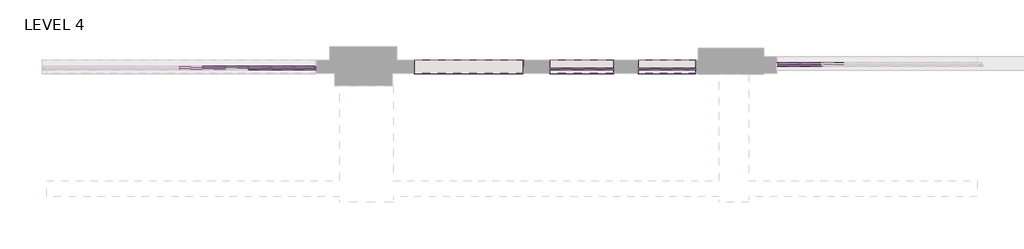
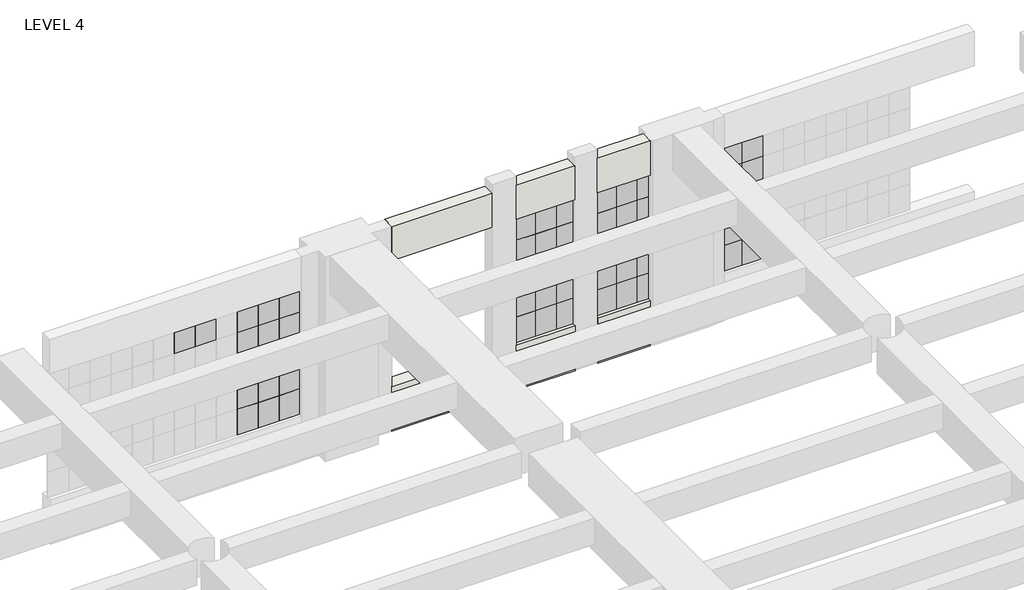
# One storey, part 13 of 26: 64 members, 57 plates, 6 walls.
"""IFC4 building model written with IfcOpenShell, lengths in millimetres."""

from ifc_helpers import new_model, si_unit, frame, origin, origin_with_axes, place, context, project, spatial, polyline, outline, extrude, transform, mapped, element, save
from components import member_038dcf1c, member_0e6c94ff, member_d9fec558, member_3d4b608b, member_3c10d71f, member_653bb31e, member_9ec6e97d, member_6e26db71, member_643a3807, member_ec43e15b, member_223704e7, member_5debf6c2, member_0f6da5c5, member_6c57b699, system_panel_glazed_ab35d819, system_panel_glazed_fc65e113, system_panel_glazed_5431d4d7, system_panel_glazed_4b8f5c95, system_panel_glazed_418eb6cd, system_panel_glazed_dc7be1f0, system_panel_glazed_3cdbc382, system_panel_glazed_e88e50cc

model = new_model("IFC4")

# Units and contexts
model_context = context("Model", 3, world=origin())
ifc_project = project(units=[si_unit("LENGTHUNIT", "METRE", prefix="MILLI")], contexts=[model_context])

# Site, building, storey
site = spatial("IfcSite", under=ifc_project)
building = spatial("IfcBuilding", under=site)
storey = spatial("IfcBuildingStorey", under=building, Name="LEVEL 4", Elevation=0.0)

# Members
placement = place(None, origin())
member_shape = member_038dcf1c(model_context)
element("IfcMember", 1, ObjectType="Circular Mullion : 1 1/4\" Square", at=placement, inside=storey, context=model_context, shape_type="MappedRepresentation", body=[
    mapped(member_shape, transform((-13793.8085473, 117287.443307, 1714.5), x_axis=(-1.0, 0.0, 0.0), y_axis=(0.0, -1.0, 0.0), z_axis=(0.0, 0.0, 1.0))),
])
element("IfcMember", 2, ObjectType="Circular Mullion : 1 1/4\" Square", at=placement, inside=storey, context=model_context, shape_type="MappedRepresentation", body=[
    mapped(member_shape, transform((-13793.8085473, 117287.443307, 2171.7), x_axis=(-1.0, 0.0, 0.0), y_axis=(0.0, -1.0, 0.0), z_axis=(0.0, 0.0, 1.0))),
])
element("IfcMember", 3, ObjectType="Circular Mullion : 1 1/4\" Square", at=placement, inside=storey, context=model_context, shape_type="MappedRepresentation", body=[
    mapped(member_shape, transform((-13793.8085473, 117287.443307, 2628.9), x_axis=(-1.0, 0.0, 0.0), y_axis=(0.0, -1.0, 0.0), z_axis=(0.0, 0.0, 1.0))),
])
element("IfcMember", 4, ObjectType="Circular Mullion : 1 1/4\" Square", at=placement, inside=storey, context=model_context, shape_type="MappedRepresentation", body=[
    mapped(member_shape, transform((-20956.6085473, 117234.1841334, 2171.7), x_axis=(1.0, 0.0, 0.0), y_axis=(0.0, -1.0, 0.0), z_axis=(0.0, 0.0, -1.0))),
])
element("IfcMember", 5, ObjectType="Circular Mullion : 1 1/4\" Square", at=placement, inside=storey, context=model_context, shape_type="MappedRepresentation", body=[
    mapped(member_shape, transform((-20956.6085473, 117234.1841334, 1714.5), x_axis=(1.0, 0.0, 0.0), y_axis=(0.0, -1.0, 0.0), z_axis=(0.0, 0.0, -1.0))),
])
element("IfcMember", 6, ObjectType="Circular Mullion : 1 1/4\" Square", at=placement, inside=storey, context=model_context, shape_type="MappedRepresentation", body=[
    mapped(member_shape, transform((-13793.8085473, 117287.443307, 1257.3), x_axis=(-1.0, 0.0, 0.0), y_axis=(0.0, -1.0, 0.0), z_axis=(0.0, 0.0, 1.0))),
])
member_2_shape = member_0e6c94ff(model_context)
element("IfcMember", 7, ObjectType="Circular Mullion : 1 1/4\" Square", at=placement, inside=storey, context=model_context, shape_type="MappedRepresentation", body=[
    mapped(member_2_shape, transform((-13793.8085473, 117287.443307, 3060.7), x_axis=(-1.0, 0.0, 0.0), y_axis=(0.0, -1.0, 0.0), z_axis=(0.0, 0.0, 1.0))),
])
member_3_shape = member_d9fec558(model_context)
element("IfcMember", 8, ObjectType="Circular Mullion : 1 1/4\" Square", at=placement, inside=storey, context=model_context, shape_type="MappedRepresentation", body=[
    mapped(member_3_shape, transform((-13438.208547, 117287.443307, 2628.9), x_axis=(1.0, 0.0, 0.0), y_axis=(0.0, -1.0, 0.0), z_axis=(0.0, 0.0, -1.0))),
])
member_4_shape = member_3d4b608b(model_context)
element("IfcMember", 9, ObjectType="Circular Mullion : 1 1/4\" Square", at=placement, inside=storey, context=model_context, shape_type="MappedRepresentation", body=[
    mapped(member_4_shape, transform((-13438.208547, 117287.443307, 1257.3), x_axis=(1.0, 0.0, 0.0), y_axis=(0.0, -1.0, 0.0), z_axis=(0.0, 0.0, -1.0))),
])
element("IfcMember", 10, ObjectType="Circular Mullion : 1 1/4\" Square", at=placement, inside=storey, context=model_context, shape_type="MappedRepresentation", body=[
    mapped(member_4_shape, transform((-13438.208547, 117287.443307, 1714.5), x_axis=(1.0, 0.0, 0.0), y_axis=(0.0, -1.0, 0.0), z_axis=(0.0, 0.0, -1.0))),
])
element("IfcMember", 11, ObjectType="Circular Mullion : 1 1/4\" Square", at=placement, inside=storey, context=model_context, shape_type="MappedRepresentation", body=[
    mapped(member_4_shape, transform((-13438.208547, 117287.443307, 2171.7), x_axis=(1.0, 0.0, 0.0), y_axis=(0.0, -1.0, 0.0), z_axis=(0.0, 0.0, -1.0))),
])
element("IfcMember", 12, ObjectType="Circular Mullion : 1 1/4\" Square", at=placement, inside=storey, context=model_context, shape_type="MappedRepresentation", body=[
    mapped(member_4_shape, transform((-13082.608547, 117287.443307, 1257.3), x_axis=(1.0, 0.0, 0.0), y_axis=(0.0, -1.0, 0.0), z_axis=(0.0, 0.0, -1.0))),
])
element("IfcMember", 13, ObjectType="Circular Mullion : 1 1/4\" Square", at=placement, inside=storey, context=model_context, shape_type="MappedRepresentation", body=[
    mapped(member_4_shape, transform((-13082.608547, 117287.443307, 1714.5), x_axis=(1.0, 0.0, 0.0), y_axis=(0.0, -1.0, 0.0), z_axis=(0.0, 0.0, -1.0))),
])
element("IfcMember", 14, ObjectType="Circular Mullion : 1 1/4\" Square", at=placement, inside=storey, context=model_context, shape_type="MappedRepresentation", body=[
    mapped(member_4_shape, transform((-21299.508547, 117234.1841334, 2171.7), x_axis=(1.0, 0.0, 0.0), y_axis=(0.0, -1.0, 0.0), z_axis=(0.0, 0.0, -1.0))),
])
element("IfcMember", 15, ObjectType="Circular Mullion : 1 1/4\" Square", at=placement, inside=storey, context=model_context, shape_type="MappedRepresentation", body=[
    mapped(member_4_shape, transform((-21299.508547, 117234.1841334, 1714.5), x_axis=(1.0, 0.0, 0.0), y_axis=(0.0, -1.0, 0.0), z_axis=(0.0, 0.0, -1.0))),
])
element("IfcMember", 16, ObjectType="Circular Mullion : 1 1/4\" Square", at=placement, inside=storey, context=model_context, shape_type="MappedRepresentation", body=[
    mapped(member_4_shape, transform((-21655.108547, 117234.1841334, 2171.7), x_axis=(1.0, 0.0, 0.0), y_axis=(0.0, -1.0, 0.0), z_axis=(0.0, 0.0, -1.0))),
])
element("IfcMember", 17, ObjectType="Circular Mullion : 1 1/4\" Square", at=placement, inside=storey, context=model_context, shape_type="MappedRepresentation", body=[
    mapped(member_4_shape, transform((-21655.108547, 117234.1841334, 1714.5), x_axis=(1.0, 0.0, 0.0), y_axis=(0.0, -1.0, 0.0), z_axis=(0.0, 0.0, -1.0))),
])
element("IfcMember", 18, ObjectType="Circular Mullion : 1 1/4\" Square", at=placement, inside=storey, context=model_context, shape_type="MappedRepresentation", body=[
    mapped(member_4_shape, transform((-13438.208547, 117287.443307, 800.1), x_axis=(1.0, 0.0, 0.0), y_axis=(0.0, -1.0, 0.0), z_axis=(0.0, 0.0, -1.0))),
])
element("IfcMember", 19, ObjectType="Circular Mullion : 1 1/4\" Square", at=placement, inside=storey, context=model_context, shape_type="MappedRepresentation", body=[
    mapped(member_4_shape, transform((-13082.608547, 117287.443307, 800.1), x_axis=(1.0, 0.0, 0.0), y_axis=(0.0, -1.0, 0.0), z_axis=(0.0, 0.0, -1.0))),
])
member_5_shape = member_3c10d71f(model_context)
element("IfcMember", 20, ObjectType="Circular Mullion : 1 1/4\" Square", at=placement, inside=storey, context=model_context, shape_type="MappedRepresentation", body=[
    mapped(member_5_shape, transform((-13095.308547, 117287.443307, 3060.7), x_axis=(0.0, 0.0, 1.0), y_axis=(0.0, -1.0, 0.0), z_axis=(1.0, 0.0, 0.0))),
])
element("IfcMember", 21, ObjectType="Circular Mullion : 1 1/4\" Square", at=placement, inside=storey, context=model_context, shape_type="MappedRepresentation", body=[
    mapped(member_5_shape, transform((-13425.508547, 117287.443307, 800.1), x_axis=(0.0, 0.0, -1.0), y_axis=(0.0, -1.0, 0.0), z_axis=(-1.0, 0.0, 0.0))),
])
element("IfcMember", 22, ObjectType="Circular Mullion : 1 1/4\" Square", at=placement, inside=storey, context=model_context, shape_type="MappedRepresentation", body=[
    mapped(member_5_shape, transform((-13069.908547, 117287.443307, 800.1), x_axis=(0.0, 0.0, -1.0), y_axis=(0.0, -1.0, 0.0), z_axis=(-1.0, 0.0, 0.0))),
])
element("IfcMember", 23, ObjectType="Circular Mullion : 1 1/4\" Square", at=placement, inside=storey, context=model_context, shape_type="MappedRepresentation", body=[
    mapped(member_5_shape, transform((-21642.408547, 117234.1841334, 800.1), x_axis=(0.0, 0.0, -1.0), y_axis=(0.0, -1.0, 0.0), z_axis=(-1.0, 0.0, 0.0))),
])
member_6_shape = member_653bb31e(model_context)
element("IfcMember", 24, ObjectType="Circular Mullion : 1 1/4\" Square", at=placement, inside=storey, context=model_context, shape_type="MappedRepresentation", body=[
    mapped(member_6_shape, transform((-13095.308547, 117287.443307, 1257.3), x_axis=(0.0, 0.0, 1.0), y_axis=(0.0, -1.0, 0.0), z_axis=(1.0, 0.0, 0.0))),
])
element("IfcMember", 25, ObjectType="Circular Mullion : 1 1/4\" Square", at=placement, inside=storey, context=model_context, shape_type="MappedRepresentation", body=[
    mapped(member_6_shape, transform((-13095.308547, 117287.443307, 1714.5), x_axis=(0.0, 0.0, 1.0), y_axis=(0.0, -1.0, 0.0), z_axis=(1.0, 0.0, 0.0))),
])
element("IfcMember", 26, ObjectType="Circular Mullion : 1 1/4\" Square", at=placement, inside=storey, context=model_context, shape_type="MappedRepresentation", body=[
    mapped(member_6_shape, transform((-13095.308547, 117287.443307, 2171.7), x_axis=(0.0, 0.0, 1.0), y_axis=(0.0, -1.0, 0.0), z_axis=(1.0, 0.0, 0.0))),
])
element("IfcMember", 27, ObjectType="Circular Mullion : 1 1/4\" Square", at=placement, inside=storey, context=model_context, shape_type="MappedRepresentation", body=[
    mapped(member_6_shape, transform((-13095.308547, 117287.443307, 2628.9), x_axis=(0.0, 0.0, 1.0), y_axis=(0.0, -1.0, 0.0), z_axis=(1.0, 0.0, 0.0))),
])
element("IfcMember", 28, ObjectType="Circular Mullion : 1 1/4\" Square", at=placement, inside=storey, context=model_context, shape_type="MappedRepresentation", body=[
    mapped(member_6_shape, transform((-21312.208547, 117234.1841334, 1714.5), x_axis=(0.0, 0.0, 1.0), y_axis=(0.0, -1.0, 0.0), z_axis=(1.0, 0.0, 0.0))),
])
element("IfcMember", 29, ObjectType="Circular Mullion : 1 1/4\" Square", at=placement, inside=storey, context=model_context, shape_type="MappedRepresentation", body=[
    mapped(member_6_shape, transform((-21312.208547, 117234.1841334, 2628.9), x_axis=(0.0, 0.0, 1.0), y_axis=(0.0, -1.0, 0.0), z_axis=(1.0, 0.0, 0.0))),
])
element("IfcMember", 30, ObjectType="Circular Mullion : 1 1/4\" Square", at=placement, inside=storey, context=model_context, shape_type="MappedRepresentation", body=[
    mapped(member_6_shape, transform((-21312.208547, 117234.1841334, 2171.7), x_axis=(0.0, 0.0, 1.0), y_axis=(0.0, -1.0, 0.0), z_axis=(1.0, 0.0, 0.0))),
])
member_7_shape = member_9ec6e97d(model_context)
element("IfcMember", 31, ObjectType="Circular Mullion : 1 1/4\" Square", at=placement, inside=storey, context=model_context, shape_type="MappedRepresentation", body=[
    mapped(member_7_shape, transform((-13450.908547, 117287.443307, 3060.7), x_axis=(0.0, 0.0, 1.0), y_axis=(0.0, -1.0, 0.0), z_axis=(1.0, 0.0, 0.0))),
])
element("IfcMember", 32, ObjectType="Circular Mullion : 1 1/4\" Square", at=placement, inside=storey, context=model_context, shape_type="MappedRepresentation", body=[
    mapped(member_7_shape, transform((-13768.4085473, 117287.443307, 800.1), x_axis=(0.0, 0.0, -1.0), y_axis=(0.0, -1.0, 0.0), z_axis=(-1.0, 0.0, 0.0))),
])
member_8_shape = member_6e26db71(model_context)
element("IfcMember", 33, ObjectType="Circular Mullion : 1 1/4\" Square", at=placement, inside=storey, context=model_context, shape_type="MappedRepresentation", body=[
    mapped(member_8_shape, transform((-13450.908547, 117287.443307, 1257.3), x_axis=(0.0, 0.0, 1.0), y_axis=(0.0, -1.0, 0.0), z_axis=(1.0, 0.0, 0.0))),
])
element("IfcMember", 34, ObjectType="Circular Mullion : 1 1/4\" Square", at=placement, inside=storey, context=model_context, shape_type="MappedRepresentation", body=[
    mapped(member_8_shape, transform((-13450.908547, 117287.443307, 1714.5), x_axis=(0.0, 0.0, 1.0), y_axis=(0.0, -1.0, 0.0), z_axis=(1.0, 0.0, 0.0))),
])
element("IfcMember", 35, ObjectType="Circular Mullion : 1 1/4\" Square", at=placement, inside=storey, context=model_context, shape_type="MappedRepresentation", body=[
    mapped(member_8_shape, transform((-13450.908547, 117287.443307, 2171.7), x_axis=(0.0, 0.0, 1.0), y_axis=(0.0, -1.0, 0.0), z_axis=(1.0, 0.0, 0.0))),
])
element("IfcMember", 36, ObjectType="Circular Mullion : 1 1/4\" Square", at=placement, inside=storey, context=model_context, shape_type="MappedRepresentation", body=[
    mapped(member_8_shape, transform((-13450.908547, 117287.443307, 2628.9), x_axis=(0.0, 0.0, 1.0), y_axis=(0.0, -1.0, 0.0), z_axis=(1.0, 0.0, 0.0))),
])
element("IfcMember", 37, ObjectType="Circular Mullion : 1 1/4\" Square", at=placement, inside=storey, context=model_context, shape_type="MappedRepresentation", body=[
    mapped(member_3_shape, transform((-21299.508547, 117234.1841334, 2628.9), x_axis=(1.0, 0.0, 0.0), y_axis=(0.0, -1.0, 0.0), z_axis=(0.0, 0.0, -1.0))),
])
element("IfcMember", 38, ObjectType="Circular Mullion : 1 1/4\" Square", at=placement, inside=storey, context=model_context, shape_type="MappedRepresentation", body=[
    mapped(member_3_shape, transform((-21655.108547, 117234.1841334, 2628.9), x_axis=(1.0, 0.0, 0.0), y_axis=(0.0, -1.0, 0.0), z_axis=(0.0, 0.0, -1.0))),
])
element("IfcMember", 39, ObjectType="Circular Mullion : 1 1/4\" Square", at=placement, inside=storey, context=model_context, shape_type="MappedRepresentation", body=[
    mapped(member_2_shape, transform((-20956.6085473, 117234.1841334, 2628.9), x_axis=(1.0, 0.0, 0.0), y_axis=(0.0, -1.0, 0.0), z_axis=(0.0, 0.0, -1.0))),
])
member_9_shape = member_643a3807(model_context)
element("IfcMember", 40, ObjectType="Circular Mullion : 1 1/4\" Square", at=placement, inside=storey, context=model_context, shape_type="MappedRepresentation", body=[
    mapped(member_9_shape, transform((-22721.908547, 117234.1841334, 1714.5), x_axis=(0.0, 0.0, 1.0), y_axis=(0.0, -1.0, 0.0), z_axis=(1.0, 0.0, 0.0))),
])
element("IfcMember", 41, ObjectType="Circular Mullion : 1 1/4\" Square", at=placement, inside=storey, context=model_context, shape_type="MappedRepresentation", body=[
    mapped(member_9_shape, transform((-22366.308547, 117234.1841334, 1714.5), x_axis=(0.0, 0.0, 1.0), y_axis=(0.0, -1.0, 0.0), z_axis=(1.0, 0.0, 0.0))),
])
element("IfcMember", 42, ObjectType="Circular Mullion : 1 1/4\" Square", at=placement, inside=storey, context=model_context, shape_type="MappedRepresentation", body=[
    mapped(member_9_shape, transform((-22010.708547, 117234.1841334, 1714.5), x_axis=(0.0, 0.0, 1.0), y_axis=(0.0, -1.0, 0.0), z_axis=(1.0, 0.0, 0.0))),
])
element("IfcMember", 43, ObjectType="Circular Mullion : 1 1/4\" Square", at=placement, inside=storey, context=model_context, shape_type="MappedRepresentation", body=[
    mapped(member_9_shape, transform((-22721.908547, 117234.1841334, 2628.9), x_axis=(0.0, 0.0, 1.0), y_axis=(0.0, -1.0, 0.0), z_axis=(1.0, 0.0, 0.0))),
])
element("IfcMember", 44, ObjectType="Circular Mullion : 1 1/4\" Square", at=placement, inside=storey, context=model_context, shape_type="MappedRepresentation", body=[
    mapped(member_9_shape, transform((-22366.308547, 117234.1841334, 2628.9), x_axis=(0.0, 0.0, 1.0), y_axis=(0.0, -1.0, 0.0), z_axis=(1.0, 0.0, 0.0))),
])
element("IfcMember", 45, ObjectType="Circular Mullion : 1 1/4\" Square", at=placement, inside=storey, context=model_context, shape_type="MappedRepresentation", body=[
    mapped(member_9_shape, transform((-22010.708547, 117234.1841334, 2628.9), x_axis=(0.0, 0.0, 1.0), y_axis=(0.0, -1.0, 0.0), z_axis=(1.0, 0.0, 0.0))),
])
element("IfcMember", 46, ObjectType="Circular Mullion : 1 1/4\" Square", at=placement, inside=storey, context=model_context, shape_type="MappedRepresentation", body=[
    mapped(member_9_shape, transform((-22721.908547, 117234.1841334, 2171.7), x_axis=(0.0, 0.0, 1.0), y_axis=(0.0, -1.0, 0.0), z_axis=(1.0, 0.0, 0.0))),
])
element("IfcMember", 47, ObjectType="Circular Mullion : 1 1/4\" Square", at=placement, inside=storey, context=model_context, shape_type="MappedRepresentation", body=[
    mapped(member_9_shape, transform((-22366.308547, 117234.1841334, 2171.7), x_axis=(0.0, 0.0, 1.0), y_axis=(0.0, -1.0, 0.0), z_axis=(1.0, 0.0, 0.0))),
])
element("IfcMember", 48, ObjectType="Circular Mullion : 1 1/4\" Square", at=placement, inside=storey, context=model_context, shape_type="MappedRepresentation", body=[
    mapped(member_9_shape, transform((-22010.708547, 117234.1841334, 2171.7), x_axis=(0.0, 0.0, 1.0), y_axis=(0.0, -1.0, 0.0), z_axis=(1.0, 0.0, 0.0))),
])
member_10_shape = member_ec43e15b(model_context)
element("IfcMember", 49, ObjectType="Circular Mullion : 1 1/4\" Square", at=placement, inside=storey, context=model_context, shape_type="MappedRepresentation", body=[
    mapped(member_10_shape, transform((-22721.908547, 117234.1841334, 800.1), x_axis=(0.0, 0.0, -1.0), y_axis=(0.0, -1.0, 0.0), z_axis=(-1.0, 0.0, 0.0))),
])
element("IfcMember", 50, ObjectType="Circular Mullion : 1 1/4\" Square", at=placement, inside=storey, context=model_context, shape_type="MappedRepresentation", body=[
    mapped(member_10_shape, transform((-22366.308547, 117234.1841334, 800.1), x_axis=(0.0, 0.0, -1.0), y_axis=(0.0, -1.0, 0.0), z_axis=(-1.0, 0.0, 0.0))),
])
member_11_shape = member_223704e7(model_context)
element("IfcMember", 51, ObjectType="Circular Mullion : 1 1/4\" Square", at=placement, inside=storey, context=model_context, shape_type="MappedRepresentation", body=[
    mapped(member_11_shape, transform((-20982.0085473, 117234.1841334, 1714.5), x_axis=(0.0, 0.0, 1.0), y_axis=(0.0, -1.0, 0.0), z_axis=(1.0, 0.0, 0.0))),
])
element("IfcMember", 52, ObjectType="Circular Mullion : 1 1/4\" Square", at=placement, inside=storey, context=model_context, shape_type="MappedRepresentation", body=[
    mapped(member_11_shape, transform((-20982.0085473, 117234.1841334, 2628.9), x_axis=(0.0, 0.0, 1.0), y_axis=(0.0, -1.0, 0.0), z_axis=(1.0, 0.0, 0.0))),
])
element("IfcMember", 53, ObjectType="Circular Mullion : 1 1/4\" Square", at=placement, inside=storey, context=model_context, shape_type="MappedRepresentation", body=[
    mapped(member_11_shape, transform((-20982.0085473, 117234.1841334, 2171.7), x_axis=(0.0, 0.0, 1.0), y_axis=(0.0, -1.0, 0.0), z_axis=(1.0, 0.0, 0.0))),
])
member_12_shape = member_5debf6c2(model_context)
element("IfcMember", 54, ObjectType="Circular Mullion : 1 1/4\" Square", at=placement, inside=storey, context=model_context, shape_type="MappedRepresentation", body=[
    mapped(member_12_shape, transform((-21286.808547, 117234.1841334, 800.1), x_axis=(0.0, 0.0, -1.0), y_axis=(0.0, -1.0, 0.0), z_axis=(-1.0, 0.0, 0.0))),
])
element("IfcMember", 55, ObjectType="Circular Mullion : 1 1/4\" Square", at=placement, inside=storey, context=model_context, shape_type="MappedRepresentation", body=[
    mapped(member_shape, transform((-20956.6085473, 117234.1841334, 800.1), x_axis=(1.0, 0.0, 0.0), y_axis=(0.0, -1.0, 0.0), z_axis=(0.0, 0.0, -1.0))),
])
member_13_shape = member_0f6da5c5(model_context)
element("IfcMember", 56, ObjectType="Circular Mullion : 1 1/4\" Square", at=placement, inside=storey, context=model_context, shape_type="MappedRepresentation", body=[
    mapped(member_13_shape, transform((-22010.708547, 117234.1841334, 800.1), x_axis=(0.0, 0.0, -1.0), y_axis=(0.0, -1.0, 0.0), z_axis=(-1.0, 0.0, 0.0))),
])
element("IfcMember", 57, ObjectType="Circular Mullion : 1 1/4\" Square", at=placement, inside=storey, context=model_context, shape_type="MappedRepresentation", body=[
    mapped(member_4_shape, transform((-21299.508547, 117234.1841334, 800.1), x_axis=(1.0, 0.0, 0.0), y_axis=(0.0, -1.0, 0.0), z_axis=(0.0, 0.0, -1.0))),
])
element("IfcMember", 58, ObjectType="Circular Mullion : 1 1/4\" Square", at=placement, inside=storey, context=model_context, shape_type="MappedRepresentation", body=[
    mapped(member_4_shape, transform((-21655.108547, 117234.1841334, 800.1), x_axis=(1.0, 0.0, 0.0), y_axis=(0.0, -1.0, 0.0), z_axis=(0.0, 0.0, -1.0))),
])
member_14_shape = member_6c57b699(model_context)
element("IfcMember", 59, ObjectType="Circular Mullion : 1 1/4\" Square", at=placement, inside=storey, context=model_context, shape_type="MappedRepresentation", body=[
    mapped(member_14_shape, transform((-21667.808547, 117234.1841334, 1714.5), x_axis=(0.0, 0.0, 1.0), y_axis=(0.0, -1.0, 0.0), z_axis=(1.0, 0.0, 0.0))),
])
element("IfcMember", 60, ObjectType="Circular Mullion : 1 1/4\" Square", at=placement, inside=storey, context=model_context, shape_type="MappedRepresentation", body=[
    mapped(member_14_shape, transform((-21667.808547, 117234.1841334, 2628.9), x_axis=(0.0, 0.0, 1.0), y_axis=(0.0, -1.0, 0.0), z_axis=(1.0, 0.0, 0.0))),
])
element("IfcMember", 61, ObjectType="Circular Mullion : 1 1/4\" Square", at=placement, inside=storey, context=model_context, shape_type="MappedRepresentation", body=[
    mapped(member_14_shape, transform((-21667.808547, 117234.1841334, 2171.7), x_axis=(0.0, 0.0, 1.0), y_axis=(0.0, -1.0, 0.0), z_axis=(1.0, 0.0, 0.0))),
])
element("IfcMember", 62, ObjectType="Circular Mullion : 1 1/4\" Square", at=placement, inside=storey, context=model_context, shape_type="MappedRepresentation", body=[
    mapped(member_4_shape, transform((-21299.508547, 117234.1841334, 1257.3), x_axis=(1.0, 0.0, 0.0), y_axis=(0.0, -1.0, 0.0), z_axis=(0.0, 0.0, -1.0))),
])
element("IfcMember", 63, ObjectType="Circular Mullion : 1 1/4\" Square", at=placement, inside=storey, context=model_context, shape_type="MappedRepresentation", body=[
    mapped(member_4_shape, transform((-21655.108547, 117234.1841334, 1257.3), x_axis=(1.0, 0.0, 0.0), y_axis=(0.0, -1.0, 0.0), z_axis=(0.0, 0.0, -1.0))),
])
element("IfcMember", 64, ObjectType="Circular Mullion : 1 1/4\" Square", at=placement, inside=storey, context=model_context, shape_type="MappedRepresentation", body=[
    mapped(member_shape, transform((-20956.6085473, 117234.1841334, 1257.3), x_axis=(1.0, 0.0, 0.0), y_axis=(0.0, -1.0, 0.0), z_axis=(0.0, 0.0, -1.0))),
])

# Plates
system_panel_glazed_shape = system_panel_glazed_ab35d819(model_context)
element("IfcPlate", 65, ObjectType="System Panel : Glazed", at=placement, inside=storey, context=model_context, shape_type="MappedRepresentation", body=[
    mapped(system_panel_glazed_shape, transform((-21477.308547, 117234.1841334, 800.1), x_axis=(1.0, 0.0, 0.0), y_axis=(0.0, 1.0, 0.0), z_axis=(0.0, 0.0, 1.0))),
])
element("IfcPlate", 66, ObjectType="System Panel : Glazed", at=placement, inside=storey, context=model_context, shape_type="MappedRepresentation", body=[
    mapped(system_panel_glazed_shape, transform((-17140.2585471, 117234.1841334, 800.1), x_axis=(1.0, 0.0, 0.0), y_axis=(0.0, 1.0, 0.0), z_axis=(0.0, 0.0, 1.0))),
])
element("IfcPlate", 67, ObjectType="System Panel : Glazed", at=placement, inside=storey, context=model_context, shape_type="MappedRepresentation", body=[
    mapped(system_panel_glazed_shape, transform((-15768.6585471, 117234.1841334, 800.1), x_axis=(1.0, 0.0, 0.0), y_axis=(0.0, 1.0, 0.0), z_axis=(0.0, 0.0, 1.0))),
])
element("IfcPlate", 68, ObjectType="System Panel : Glazed", at=placement, inside=storey, context=model_context, shape_type="MappedRepresentation", body=[
    mapped(system_panel_glazed_shape, transform((-13616.0085471, 117287.443307, 800.1), x_axis=(1.0, 0.0, 0.0), y_axis=(0.0, 1.0, 0.0), z_axis=(0.0, 0.0, 1.0))),
])
element("IfcPlate", 69, ObjectType="System Panel : Glazed", at=placement, inside=storey, context=model_context, shape_type="MappedRepresentation", body=[
    mapped(system_panel_glazed_shape, transform((-21832.908547, 117234.1841334, 800.1), x_axis=(1.0, 0.0, 0.0), y_axis=(0.0, 1.0, 0.0), z_axis=(0.0, 0.0, 1.0))),
])
element("IfcPlate", 70, ObjectType="System Panel : Glazed", at=placement, inside=storey, context=model_context, shape_type="MappedRepresentation", body=[
    mapped(system_panel_glazed_shape, transform((-21832.908547, 117234.1841334, 1257.3), x_axis=(1.0, 0.0, 0.0), y_axis=(0.0, 1.0, 0.0), z_axis=(0.0, 0.0, 1.0))),
])
element("IfcPlate", 71, ObjectType="System Panel : Glazed", at=placement, inside=storey, context=model_context, shape_type="MappedRepresentation", body=[
    mapped(system_panel_glazed_shape, transform((-21477.308547, 117234.1841334, 1257.3), x_axis=(1.0, 0.0, 0.0), y_axis=(0.0, 1.0, 0.0), z_axis=(0.0, 0.0, 1.0))),
])
element("IfcPlate", 72, ObjectType="System Panel : Glazed", at=placement, inside=storey, context=model_context, shape_type="MappedRepresentation", body=[
    mapped(system_panel_glazed_shape, transform((-21832.908547, 117234.1841334, 1714.5), x_axis=(1.0, 0.0, 0.0), y_axis=(0.0, 1.0, 0.0), z_axis=(0.0, 0.0, 1.0))),
])
element("IfcPlate", 73, ObjectType="System Panel : Glazed", at=placement, inside=storey, context=model_context, shape_type="MappedRepresentation", body=[
    mapped(system_panel_glazed_shape, transform((-21477.308547, 117234.1841334, 1714.5), x_axis=(1.0, 0.0, 0.0), y_axis=(0.0, 1.0, 0.0), z_axis=(0.0, 0.0, 1.0))),
])
element("IfcPlate", 74, ObjectType="System Panel : Glazed", at=placement, inside=storey, context=model_context, shape_type="MappedRepresentation", body=[
    mapped(system_panel_glazed_shape, transform((-21832.908547, 117234.1841334, 2171.7), x_axis=(1.0, 0.0, 0.0), y_axis=(0.0, 1.0, 0.0), z_axis=(0.0, 0.0, 1.0))),
])
element("IfcPlate", 75, ObjectType="System Panel : Glazed", at=placement, inside=storey, context=model_context, shape_type="MappedRepresentation", body=[
    mapped(system_panel_glazed_shape, transform((-21477.308547, 117234.1841334, 2171.7), x_axis=(1.0, 0.0, 0.0), y_axis=(0.0, 1.0, 0.0), z_axis=(0.0, 0.0, 1.0))),
])
element("IfcPlate", 76, ObjectType="System Panel : Glazed", at=placement, inside=storey, context=model_context, shape_type="MappedRepresentation", body=[
    mapped(system_panel_glazed_shape, transform((-16784.658547, 117234.1841334, 800.1), x_axis=(1.0, 0.0, 0.0), y_axis=(0.0, 1.0, 0.0), z_axis=(0.0, 0.0, 1.0))),
])
element("IfcPlate", 77, ObjectType="System Panel : Glazed", at=placement, inside=storey, context=model_context, shape_type="MappedRepresentation", body=[
    mapped(system_panel_glazed_shape, transform((-17140.2585471, 117234.1841334, 1257.3), x_axis=(1.0, 0.0, 0.0), y_axis=(0.0, 1.0, 0.0), z_axis=(0.0, 0.0, 1.0))),
])
element("IfcPlate", 78, ObjectType="System Panel : Glazed", at=placement, inside=storey, context=model_context, shape_type="MappedRepresentation", body=[
    mapped(system_panel_glazed_shape, transform((-16784.658547, 117234.1841334, 1257.3), x_axis=(1.0, 0.0, 0.0), y_axis=(0.0, 1.0, 0.0), z_axis=(0.0, 0.0, 1.0))),
])
element("IfcPlate", 79, ObjectType="System Panel : Glazed", at=placement, inside=storey, context=model_context, shape_type="MappedRepresentation", body=[
    mapped(system_panel_glazed_shape, transform((-17140.2585471, 117234.1841334, 1714.5), x_axis=(1.0, 0.0, 0.0), y_axis=(0.0, 1.0, 0.0), z_axis=(0.0, 0.0, 1.0))),
])
element("IfcPlate", 80, ObjectType="System Panel : Glazed", at=placement, inside=storey, context=model_context, shape_type="MappedRepresentation", body=[
    mapped(system_panel_glazed_shape, transform((-16784.658547, 117234.1841334, 1714.5), x_axis=(1.0, 0.0, 0.0), y_axis=(0.0, 1.0, 0.0), z_axis=(0.0, 0.0, 1.0))),
])
element("IfcPlate", 81, ObjectType="System Panel : Glazed", at=placement, inside=storey, context=model_context, shape_type="MappedRepresentation", body=[
    mapped(system_panel_glazed_shape, transform((-17140.2585471, 117234.1841334, 2171.7), x_axis=(1.0, 0.0, 0.0), y_axis=(0.0, 1.0, 0.0), z_axis=(0.0, 0.0, 1.0))),
])
element("IfcPlate", 82, ObjectType="System Panel : Glazed", at=placement, inside=storey, context=model_context, shape_type="MappedRepresentation", body=[
    mapped(system_panel_glazed_shape, transform((-16784.658547, 117234.1841334, 2171.7), x_axis=(1.0, 0.0, 0.0), y_axis=(0.0, 1.0, 0.0), z_axis=(0.0, 0.0, 1.0))),
])
element("IfcPlate", 83, ObjectType="System Panel : Glazed", at=placement, inside=storey, context=model_context, shape_type="MappedRepresentation", body=[
    mapped(system_panel_glazed_shape, transform((-15768.6585471, 117234.1841334, 1257.3), x_axis=(1.0, 0.0, 0.0), y_axis=(0.0, 1.0, 0.0), z_axis=(0.0, 0.0, 1.0))),
])
element("IfcPlate", 84, ObjectType="System Panel : Glazed", at=placement, inside=storey, context=model_context, shape_type="MappedRepresentation", body=[
    mapped(system_panel_glazed_shape, transform((-15768.6585471, 117234.1841334, 1714.5), x_axis=(1.0, 0.0, 0.0), y_axis=(0.0, 1.0, 0.0), z_axis=(0.0, 0.0, 1.0))),
])
element("IfcPlate", 85, ObjectType="System Panel : Glazed", at=placement, inside=storey, context=model_context, shape_type="MappedRepresentation", body=[
    mapped(system_panel_glazed_shape, transform((-15768.6585471, 117234.1841334, 2171.7), x_axis=(1.0, 0.0, 0.0), y_axis=(0.0, 1.0, 0.0), z_axis=(0.0, 0.0, 1.0))),
])
element("IfcPlate", 86, ObjectType="System Panel : Glazed", at=placement, inside=storey, context=model_context, shape_type="MappedRepresentation", body=[
    mapped(system_panel_glazed_shape, transform((-13616.0085471, 117287.443307, 1257.3), x_axis=(1.0, 0.0, 0.0), y_axis=(0.0, 1.0, 0.0), z_axis=(0.0, 0.0, 1.0))),
])
element("IfcPlate", 87, ObjectType="System Panel : Glazed", at=placement, inside=storey, context=model_context, shape_type="MappedRepresentation", body=[
    mapped(system_panel_glazed_shape, transform((-13616.0085471, 117287.443307, 1714.5), x_axis=(1.0, 0.0, 0.0), y_axis=(0.0, 1.0, 0.0), z_axis=(0.0, 0.0, 1.0))),
])
element("IfcPlate", 88, ObjectType="System Panel : Glazed", at=placement, inside=storey, context=model_context, shape_type="MappedRepresentation", body=[
    mapped(system_panel_glazed_shape, transform((-13616.0085471, 117287.443307, 2171.7), x_axis=(1.0, 0.0, 0.0), y_axis=(0.0, 1.0, 0.0), z_axis=(0.0, 0.0, 1.0))),
])
element("IfcPlate", 89, ObjectType="System Panel : Glazed", at=placement, inside=storey, context=model_context, shape_type="MappedRepresentation", body=[
    mapped(system_panel_glazed_shape, transform((-15413.058547, 117234.1841334, 800.1), x_axis=(1.0, 0.0, 0.0), y_axis=(0.0, 1.0, 0.0), z_axis=(0.0, 0.0, 1.0))),
])
element("IfcPlate", 90, ObjectType="System Panel : Glazed", at=placement, inside=storey, context=model_context, shape_type="MappedRepresentation", body=[
    mapped(system_panel_glazed_shape, transform((-15413.058547, 117234.1841334, 1257.3), x_axis=(1.0, 0.0, 0.0), y_axis=(0.0, 1.0, 0.0), z_axis=(0.0, 0.0, 1.0))),
])
element("IfcPlate", 91, ObjectType="System Panel : Glazed", at=placement, inside=storey, context=model_context, shape_type="MappedRepresentation", body=[
    mapped(system_panel_glazed_shape, transform((-15413.058547, 117234.1841334, 1714.5), x_axis=(1.0, 0.0, 0.0), y_axis=(0.0, 1.0, 0.0), z_axis=(0.0, 0.0, 1.0))),
])
element("IfcPlate", 92, ObjectType="System Panel : Glazed", at=placement, inside=storey, context=model_context, shape_type="MappedRepresentation", body=[
    mapped(system_panel_glazed_shape, transform((-15413.058547, 117234.1841334, 2171.7), x_axis=(1.0, 0.0, 0.0), y_axis=(0.0, 1.0, 0.0), z_axis=(0.0, 0.0, 1.0))),
])
element("IfcPlate", 93, ObjectType="System Panel : Glazed", at=placement, inside=storey, context=model_context, shape_type="MappedRepresentation", body=[
    mapped(system_panel_glazed_shape, transform((-13260.408547, 117287.443307, 800.1), x_axis=(1.0, 0.0, 0.0), y_axis=(0.0, 1.0, 0.0), z_axis=(0.0, 0.0, 1.0))),
])
element("IfcPlate", 94, ObjectType="System Panel : Glazed", at=placement, inside=storey, context=model_context, shape_type="MappedRepresentation", body=[
    mapped(system_panel_glazed_shape, transform((-13260.408547, 117287.443307, 1257.3), x_axis=(1.0, 0.0, 0.0), y_axis=(0.0, 1.0, 0.0), z_axis=(0.0, 0.0, 1.0))),
])
element("IfcPlate", 95, ObjectType="System Panel : Glazed", at=placement, inside=storey, context=model_context, shape_type="MappedRepresentation", body=[
    mapped(system_panel_glazed_shape, transform((-13260.408547, 117287.443307, 1714.5), x_axis=(1.0, 0.0, 0.0), y_axis=(0.0, 1.0, 0.0), z_axis=(0.0, 0.0, 1.0))),
])
element("IfcPlate", 96, ObjectType="System Panel : Glazed", at=placement, inside=storey, context=model_context, shape_type="MappedRepresentation", body=[
    mapped(system_panel_glazed_shape, transform((-13260.408547, 117287.443307, 2171.7), x_axis=(1.0, 0.0, 0.0), y_axis=(0.0, 1.0, 0.0), z_axis=(0.0, 0.0, 1.0))),
])
system_panel_glazed_2_shape = system_panel_glazed_fc65e113(model_context)
element("IfcPlate", 97, ObjectType="System Panel : Glazed", at=placement, inside=storey, context=model_context, shape_type="MappedRepresentation", body=[
    mapped(system_panel_glazed_2_shape, transform((-21128.0585471, 117234.1841334, 800.1), x_axis=(1.0, 0.0, 0.0), y_axis=(0.0, 1.0, 0.0), z_axis=(0.0, 0.0, 1.0))),
])
element("IfcPlate", 98, ObjectType="System Panel : Glazed", at=placement, inside=storey, context=model_context, shape_type="MappedRepresentation", body=[
    mapped(system_panel_glazed_2_shape, transform((-21128.0585471, 117234.1841334, 1257.3), x_axis=(1.0, 0.0, 0.0), y_axis=(0.0, 1.0, 0.0), z_axis=(0.0, 0.0, 1.0))),
])
element("IfcPlate", 99, ObjectType="System Panel : Glazed", at=placement, inside=storey, context=model_context, shape_type="MappedRepresentation", body=[
    mapped(system_panel_glazed_2_shape, transform((-21128.0585471, 117234.1841334, 1714.5), x_axis=(1.0, 0.0, 0.0), y_axis=(0.0, 1.0, 0.0), z_axis=(0.0, 0.0, 1.0))),
])
element("IfcPlate", 100, ObjectType="System Panel : Glazed", at=placement, inside=storey, context=model_context, shape_type="MappedRepresentation", body=[
    mapped(system_panel_glazed_2_shape, transform((-21128.0585471, 117234.1841334, 2171.7), x_axis=(1.0, 0.0, 0.0), y_axis=(0.0, 1.0, 0.0), z_axis=(0.0, 0.0, 1.0))),
])
system_panel_glazed_3_shape = system_panel_glazed_5431d4d7(model_context)
element("IfcPlate", 101, ObjectType="System Panel : Glazed", at=placement, inside=storey, context=model_context, shape_type="MappedRepresentation", body=[
    mapped(system_panel_glazed_3_shape, transform((-16467.1585471, 117234.1841334, 800.1), x_axis=(1.0, 0.0, 0.0), y_axis=(0.0, 1.0, 0.0), z_axis=(0.0, 0.0, 1.0))),
])
element("IfcPlate", 102, ObjectType="System Panel : Glazed", at=placement, inside=storey, context=model_context, shape_type="MappedRepresentation", body=[
    mapped(system_panel_glazed_3_shape, transform((-16467.1585471, 117234.1841334, 1257.3), x_axis=(1.0, 0.0, 0.0), y_axis=(0.0, 1.0, 0.0), z_axis=(0.0, 0.0, 1.0))),
])
element("IfcPlate", 103, ObjectType="System Panel : Glazed", at=placement, inside=storey, context=model_context, shape_type="MappedRepresentation", body=[
    mapped(system_panel_glazed_3_shape, transform((-16467.1585471, 117234.1841334, 1714.5), x_axis=(1.0, 0.0, 0.0), y_axis=(0.0, 1.0, 0.0), z_axis=(0.0, 0.0, 1.0))),
])
element("IfcPlate", 104, ObjectType="System Panel : Glazed", at=placement, inside=storey, context=model_context, shape_type="MappedRepresentation", body=[
    mapped(system_panel_glazed_3_shape, transform((-16467.1585471, 117234.1841334, 2171.7), x_axis=(1.0, 0.0, 0.0), y_axis=(0.0, 1.0, 0.0), z_axis=(0.0, 0.0, 1.0))),
])
system_panel_glazed_4_shape = system_panel_glazed_4b8f5c95(model_context)
element("IfcPlate", 105, ObjectType="System Panel : Glazed", at=placement, inside=storey, context=model_context, shape_type="MappedRepresentation", body=[
    mapped(system_panel_glazed_4_shape, transform((-15143.1835471, 117234.1841334, 800.1), x_axis=(1.0, 0.0, 0.0), y_axis=(0.0, 1.0, 0.0), z_axis=(0.0, 0.0, 1.0))),
])
element("IfcPlate", 106, ObjectType="System Panel : Glazed", at=placement, inside=storey, context=model_context, shape_type="MappedRepresentation", body=[
    mapped(system_panel_glazed_4_shape, transform((-15143.1835471, 117234.1841334, 1257.3), x_axis=(1.0, 0.0, 0.0), y_axis=(0.0, 1.0, 0.0), z_axis=(0.0, 0.0, 1.0))),
])
element("IfcPlate", 107, ObjectType="System Panel : Glazed", at=placement, inside=storey, context=model_context, shape_type="MappedRepresentation", body=[
    mapped(system_panel_glazed_4_shape, transform((-15143.1835471, 117234.1841334, 1714.5), x_axis=(1.0, 0.0, 0.0), y_axis=(0.0, 1.0, 0.0), z_axis=(0.0, 0.0, 1.0))),
])
element("IfcPlate", 108, ObjectType="System Panel : Glazed", at=placement, inside=storey, context=model_context, shape_type="MappedRepresentation", body=[
    mapped(system_panel_glazed_4_shape, transform((-15143.1835471, 117234.1841334, 2171.7), x_axis=(1.0, 0.0, 0.0), y_axis=(0.0, 1.0, 0.0), z_axis=(0.0, 0.0, 1.0))),
])
system_panel_glazed_5_shape = system_panel_glazed_418eb6cd(model_context)
element("IfcPlate", 109, ObjectType="System Panel : Glazed", at=placement, inside=storey, context=model_context, shape_type="MappedRepresentation", body=[
    mapped(system_panel_glazed_5_shape, transform((-21832.908547, 117234.1841334, 2628.9), x_axis=(1.0, 0.0, 0.0), y_axis=(0.0, 1.0, 0.0), z_axis=(0.0, 0.0, 1.0))),
])
element("IfcPlate", 110, ObjectType="System Panel : Glazed", at=placement, inside=storey, context=model_context, shape_type="MappedRepresentation", body=[
    mapped(system_panel_glazed_5_shape, transform((-22544.108547, 117234.1841334, 2628.9), x_axis=(1.0, 0.0, 0.0), y_axis=(0.0, 1.0, 0.0), z_axis=(0.0, 0.0, 1.0))),
])
element("IfcPlate", 111, ObjectType="System Panel : Glazed", at=placement, inside=storey, context=model_context, shape_type="MappedRepresentation", body=[
    mapped(system_panel_glazed_5_shape, transform((-22899.708547, 117234.1841334, 2628.9), x_axis=(1.0, 0.0, 0.0), y_axis=(0.0, 1.0, 0.0), z_axis=(0.0, 0.0, 1.0))),
])
element("IfcPlate", 112, ObjectType="System Panel : Glazed", at=placement, inside=storey, context=model_context, shape_type="MappedRepresentation", body=[
    mapped(system_panel_glazed_5_shape, transform((-21477.308547, 117234.1841334, 2628.9), x_axis=(1.0, 0.0, 0.0), y_axis=(0.0, 1.0, 0.0), z_axis=(0.0, 0.0, 1.0))),
])
element("IfcPlate", 113, ObjectType="System Panel : Glazed", at=placement, inside=storey, context=model_context, shape_type="MappedRepresentation", body=[
    mapped(system_panel_glazed_5_shape, transform((-17140.2585471, 117234.1841334, 2628.9), x_axis=(1.0, 0.0, 0.0), y_axis=(0.0, 1.0, 0.0), z_axis=(0.0, 0.0, 1.0))),
])
element("IfcPlate", 114, ObjectType="System Panel : Glazed", at=placement, inside=storey, context=model_context, shape_type="MappedRepresentation", body=[
    mapped(system_panel_glazed_5_shape, transform((-16784.658547, 117234.1841334, 2628.9), x_axis=(1.0, 0.0, 0.0), y_axis=(0.0, 1.0, 0.0), z_axis=(0.0, 0.0, 1.0))),
])
element("IfcPlate", 115, ObjectType="System Panel : Glazed", at=placement, inside=storey, context=model_context, shape_type="MappedRepresentation", body=[
    mapped(system_panel_glazed_5_shape, transform((-15768.6585471, 117234.1841334, 2628.9), x_axis=(1.0, 0.0, 0.0), y_axis=(0.0, 1.0, 0.0), z_axis=(0.0, 0.0, 1.0))),
])
element("IfcPlate", 116, ObjectType="System Panel : Glazed", at=placement, inside=storey, context=model_context, shape_type="MappedRepresentation", body=[
    mapped(system_panel_glazed_5_shape, transform((-13616.0085471, 117287.443307, 2628.9), x_axis=(1.0, 0.0, 0.0), y_axis=(0.0, 1.0, 0.0), z_axis=(0.0, 0.0, 1.0))),
])
element("IfcPlate", 117, ObjectType="System Panel : Glazed", at=placement, inside=storey, context=model_context, shape_type="MappedRepresentation", body=[
    mapped(system_panel_glazed_5_shape, transform((-15413.058547, 117234.1841334, 2628.9), x_axis=(1.0, 0.0, 0.0), y_axis=(0.0, 1.0, 0.0), z_axis=(0.0, 0.0, 1.0))),
])
element("IfcPlate", 118, ObjectType="System Panel : Glazed", at=placement, inside=storey, context=model_context, shape_type="MappedRepresentation", body=[
    mapped(system_panel_glazed_5_shape, transform((-13260.408547, 117287.443307, 2628.9), x_axis=(1.0, 0.0, 0.0), y_axis=(0.0, 1.0, 0.0), z_axis=(0.0, 0.0, 1.0))),
])
system_panel_glazed_6_shape = system_panel_glazed_dc7be1f0(model_context)
element("IfcPlate", 119, ObjectType="System Panel : Glazed", at=placement, inside=storey, context=model_context, shape_type="MappedRepresentation", body=[
    mapped(system_panel_glazed_6_shape, transform((-21128.0585471, 117234.1841334, 2628.9), x_axis=(1.0, 0.0, 0.0), y_axis=(0.0, 1.0, 0.0), z_axis=(0.0, 0.0, 1.0))),
])
system_panel_glazed_7_shape = system_panel_glazed_3cdbc382(model_context)
element("IfcPlate", 120, ObjectType="System Panel : Glazed", at=placement, inside=storey, context=model_context, shape_type="MappedRepresentation", body=[
    mapped(system_panel_glazed_7_shape, transform((-16467.1585471, 117234.1841334, 2628.9), x_axis=(1.0, 0.0, 0.0), y_axis=(0.0, 1.0, 0.0), z_axis=(0.0, 0.0, 1.0))),
])
system_panel_glazed_8_shape = system_panel_glazed_e88e50cc(model_context)
element("IfcPlate", 121, ObjectType="System Panel : Glazed", at=placement, inside=storey, context=model_context, shape_type="MappedRepresentation", body=[
    mapped(system_panel_glazed_8_shape, transform((-15143.1835471, 117234.1841334, 2628.9), x_axis=(1.0, 0.0, 0.0), y_axis=(0.0, 1.0, 0.0), z_axis=(0.0, 0.0, 1.0))),
])

# Walls
element("IfcWall", 122, ObjectType="_Generic - 8 1/4\"", at=placement, inside=storey, context=model_context, shape_type="SweptSolid", body=[
    extrude(outline(polyline([(-17741.9210473, 117129.4091334), (-19426.2585473, 117129.4091334), (-19426.2585473, 117338.9591334), (-17741.9210473, 117338.9591334), (-17741.9210473, 117129.4091334)])), origin_with_axes(), (0.0, 0.0, 1.0), 800.1),
])
element("IfcWall", 123, ObjectType="_Generic - 8 1/4\"", at=placement, inside=storey, context=model_context, shape_type="SweptSolid", body=[
    extrude(outline(polyline([(-16327.4585473, 117129.4091334), (-17318.0585473, 117129.4091334), (-17318.0585473, 117338.9591334), (-16327.4585473, 117338.9591334), (-16327.4585473, 117129.4091334)])), origin_with_axes(), (0.0, 0.0, 1.0), 800.1),
])
element("IfcWall", 124, ObjectType="_Generic - 8 1/4\"", at=placement, inside=storey, context=model_context, shape_type="SweptSolid", body=[
    extrude(outline(polyline([(-15051.1085473, 117129.4091334), (-15946.4585473, 117129.4091334), (-15946.4585473, 117338.9591334), (-15051.1085473, 117338.9591334), (-15051.1085473, 117129.4091334)])), origin_with_axes(), (0.0, 0.0, 1.0), 800.1),
])
element("IfcWall", 125, ObjectType="_Generic - 8 1/4\"", at=placement, inside=storey, context=model_context, shape_type="SweptSolid", body=[
    extrude(outline(polyline([(-15946.4585473, 117344.593307), (-15051.1085473, 117344.593307), (-15051.1085473, 117135.043307), (-15946.4585473, 117135.043307), (-15946.4585473, 117344.593307)])), frame((0.0, 0.0, 3048.0), z_axis=(0.0, 0.0, 1.0), x_axis=(1.0, 0.0, 0.0)), (0.0, 0.0, 1.0), 609.6),
])
element("IfcWall", 126, ObjectType="_Generic - 8 1/4\"", at=placement, inside=storey, context=model_context, shape_type="SweptSolid", body=[
    extrude(outline(polyline([(-17318.0585473, 117345.3091334), (-16327.4585473, 117345.3091334), (-16327.4585473, 117135.7591334), (-17318.0585473, 117135.7591334), (-17318.0585473, 117345.3091334)])), frame((0.0, 0.0, 3048.0), z_axis=(0.0, 0.0, 1.0), x_axis=(1.0, 0.0, 0.0)), (0.0, 0.0, 1.0), 609.6),
])
element("IfcWall", 127, ObjectType="_Generic - 8 1/4\"", at=placement, inside=storey, context=model_context, shape_type="SweptSolid", body=[
    extrude(outline(polyline([(-19426.2585473, 117345.3091334), (-17724.4585473, 117345.3091334), (-17724.4585473, 117135.7591334), (-19426.2585473, 117135.7591334), (-19426.2585473, 117345.3091334)])), frame((0.0, 0.0, 3048.0), z_axis=(0.0, 0.0, 1.0), x_axis=(1.0, 0.0, 0.0)), (0.0, 0.0, 1.0), 609.6),
])

save(model, "model.ifc")
